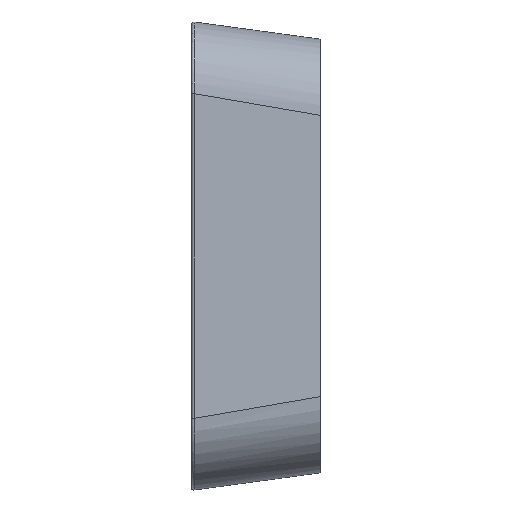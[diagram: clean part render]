
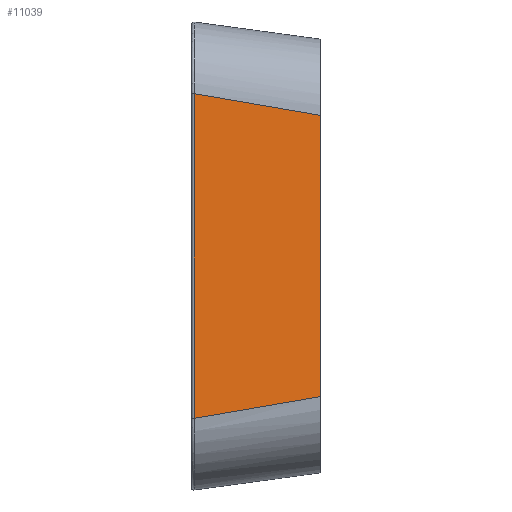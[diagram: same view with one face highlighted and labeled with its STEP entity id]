
A CAD part, left-side view. The second image highlights one B-rep face of the part: STEP entity #11039.
In plain terms, the highlighted planar face has unit normal (-0.991, -0.135, 0).
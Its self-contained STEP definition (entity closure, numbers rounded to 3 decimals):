
#95 = ORIENTED_EDGE ( 'NONE', *, *, #3112, .T. ) ;
#187 = VERTEX_POINT ( 'NONE', #23876 ) ;
#431 = ORIENTED_EDGE ( 'NONE', *, *, #23448, .F. ) ;
#643 = VERTEX_POINT ( 'NONE', #8331 ) ;
#1509 = CARTESIAN_POINT ( 'NONE',  ( -199.575, -2.282, -138.456 ) ) ;
#1851 = LINE ( 'NONE', #3794, #2028 ) ;
#1891 = VERTEX_POINT ( 'NONE', #2441 ) ;
#2028 = VECTOR ( 'NONE', #3661, 1000. ) ;
#2441 = CARTESIAN_POINT ( 'NONE',  ( -199.577, -2.27, -138.456 ) ) ;
#3112 = EDGE_CURVE ( 'NONE', #187, #1891, #21392, .T. ) ;
#3294 = AXIS2_PLACEMENT_3D ( 'NONE', #17682, #13385, #19370 ) ;
#3301 = CARTESIAN_POINT ( 'NONE',  ( -199.577, -2.27, 0. ) ) ;
#3661 = DIRECTION ( 'NONE',  ( -0.133, 0.977, -0.168 ) ) ;
#3794 = CARTESIAN_POINT ( 'NONE',  ( -192.399, -55., -129.38 ) ) ;
#3941 = CARTESIAN_POINT ( 'NONE',  ( -184.912, -110., 0. ) ) ;
#4611 = CARTESIAN_POINT ( 'NONE',  ( -199.574, -2.289, 138.454 ) ) ;
#4866 = ORIENTED_EDGE ( 'NONE', *, *, #24279, .F. ) ;
#5162 = CARTESIAN_POINT ( 'NONE',  ( -199.574, -2.289, -138.454 ) ) ;
#5616 = VERTEX_POINT ( 'NONE', #4611 ) ;
#5729 = CARTESIAN_POINT ( 'NONE',  ( -199.575, -2.282, 138.456 ) ) ;
#6949 = B_SPLINE_CURVE_WITH_KNOTS ( 'NONE', 3,
 ( #23005, #11397, #1509, #5162 ),
 .UNSPECIFIED., .F., .F.,
 ( 4, 4 ),
 ( 0., 0. ),
 .UNSPECIFIED. ) ;
#7016 = VECTOR ( 'NONE', #25564, 1000. ) ;
#7547 = CARTESIAN_POINT ( 'NONE',  ( -199.576, -2.276, 138.456 ) ) ;
#7809 = CARTESIAN_POINT ( 'NONE',  ( -199.574, -2.289, 138.454 ) ) ;
#8331 = CARTESIAN_POINT ( 'NONE',  ( -184.912, -110., 119.912 ) ) ;
#9515 = CARTESIAN_POINT ( 'NONE',  ( -184.912, -110., -119.912 ) ) ;
#9590 = PLANE ( 'NONE',  #3294 ) ;
#10321 = DIRECTION ( 'NONE',  ( 0.133, -0.977, -0.168 ) ) ;
#11039 = ADVANCED_FACE ( 'NONE', ( #11815 ), #9590, .T. ) ;
#11397 = CARTESIAN_POINT ( 'NONE',  ( -199.576, -2.276, -138.456 ) ) ;
#11717 = CARTESIAN_POINT ( 'NONE',  ( -199.577, -2.27, 138.456 ) ) ;
#11815 = FACE_OUTER_BOUND ( 'NONE', #14770, .T. ) ;
#12488 = EDGE_CURVE ( 'NONE', #1891, #19852, #6949, .T. ) ;
#12881 = ORIENTED_EDGE ( 'NONE', *, *, #18370, .F. ) ;
#13385 = DIRECTION ( 'NONE',  ( -0.991, -0.135, 0. ) ) ;
#14770 = EDGE_LOOP ( 'NONE', ( #12881, #4866, #17040, #95, #17641, #431 ) ) ;
#15290 = DIRECTION ( 'NONE',  ( 0., 0., -1. ) ) ;
#17040 = ORIENTED_EDGE ( 'NONE', *, *, #21289, .T. ) ;
#17641 = ORIENTED_EDGE ( 'NONE', *, *, #12488, .T. ) ;
#17682 = CARTESIAN_POINT ( 'NONE',  ( -196.249, -26.714, 0. ) ) ;
#18370 = EDGE_CURVE ( 'NONE', #643, #24659, #21905, .T. ) ;
#18713 = B_SPLINE_CURVE_WITH_KNOTS ( 'NONE', 3,
 ( #7809, #5729, #7547, #11717 ),
 .UNSPECIFIED., .F., .F.,
 ( 4, 4 ),
 ( 0., 0. ),
 .UNSPECIFIED. ) ;
#19370 = DIRECTION ( 'NONE',  ( 0.135, -0.991, 0. ) ) ;
#19852 = VERTEX_POINT ( 'NONE', #22518 ) ;
#19900 = VECTOR ( 'NONE', #10321, 1000. ) ;
#20353 = LINE ( 'NONE', #20483, #19900 ) ;
#20483 = CARTESIAN_POINT ( 'NONE',  ( -192.399, -55., 129.38 ) ) ;
#21289 = EDGE_CURVE ( 'NONE', #5616, #187, #18713, .T. ) ;
#21392 = LINE ( 'NONE', #3301, #22407 ) ;
#21905 = LINE ( 'NONE', #3941, #7016 ) ;
#22407 = VECTOR ( 'NONE', #15290, 1000. ) ;
#22518 = CARTESIAN_POINT ( 'NONE',  ( -199.574, -2.289, -138.454 ) ) ;
#23005 = CARTESIAN_POINT ( 'NONE',  ( -199.577, -2.27, -138.456 ) ) ;
#23448 = EDGE_CURVE ( 'NONE', #24659, #19852, #1851, .T. ) ;
#23876 = CARTESIAN_POINT ( 'NONE',  ( -199.577, -2.27, 138.456 ) ) ;
#24279 = EDGE_CURVE ( 'NONE', #5616, #643, #20353, .T. ) ;
#24659 = VERTEX_POINT ( 'NONE', #9515 ) ;
#25564 = DIRECTION ( 'NONE',  ( 0., 0., -1. ) ) ;
